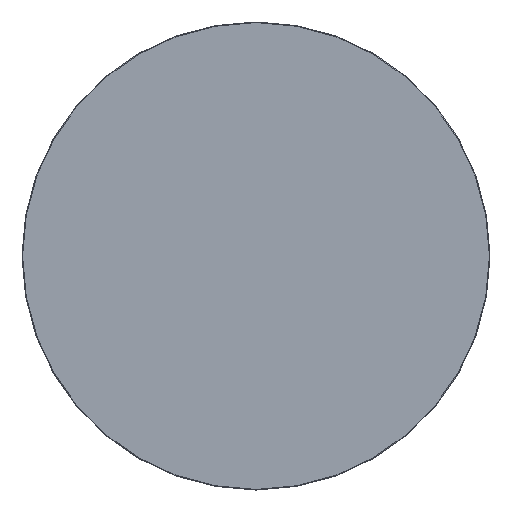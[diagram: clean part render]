
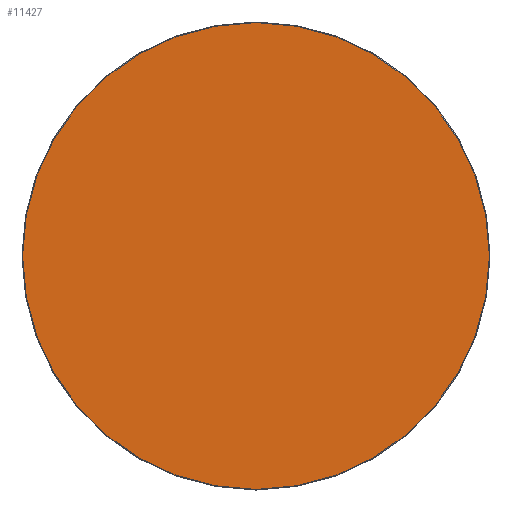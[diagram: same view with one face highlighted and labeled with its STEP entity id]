
A CAD part, top view. The second image highlights one B-rep face of the part: STEP entity #11427.
In plain terms, the highlighted planar face has unit normal (0, 0, 1).
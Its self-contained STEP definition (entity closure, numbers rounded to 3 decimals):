
#11352=CARTESIAN_POINT('',(0.,0.,20.));
#11353=DIRECTION('',(1.,0.,0.));
#11354=DIRECTION('',(0.,0.,1.));
#11355=AXIS2_PLACEMENT_3D('',#11352,#11354,#11353);
#11356=PLANE('',#11355);
#11357=CARTESIAN_POINT('',(-0.5,-548.5,20.));
#11358=VERTEX_POINT('',#11357);
#11359=CARTESIAN_POINT('',(0.5,-548.5,20.));
#11360=VERTEX_POINT('',#11359);
#11361=CARTESIAN_POINT('',(-0.5,-548.5,20.));
#11362=DIRECTION('',(1.,0.,0.));
#11363=VECTOR('',#11362,1.);
#11364=LINE('',#11361,#11363);
#11365=EDGE_CURVE('',#11358,#11360,#11364,.T.);
#11366=ORIENTED_EDGE('E105',*,*,#11365,.T.);
#11367=CARTESIAN_POINT('',(548.5,-0.5,20.));
#11368=VERTEX_POINT('',#11367);
#11369=CARTESIAN_POINT('',(0.5,-0.5,20.));
#11370=DIRECTION('',(0.,-1.,0.));
#11371=DIRECTION('',(0.,-0.,1.));
#11372=AXIS2_PLACEMENT_3D('',#11369,#11371,#11370);
#11373=CIRCLE('',#11372,548.);
#11374=EDGE_CURVE('',#11360,#11368,#11373,.T.);
#11375=ORIENTED_EDGE('E107',*,*,#11374,.T.);
#11376=CARTESIAN_POINT('',(548.5,0.5,20.));
#11377=VERTEX_POINT('',#11376);
#11378=CARTESIAN_POINT('',(548.5,-0.5,20.));
#11379=DIRECTION('',(0.,1.,0.));
#11380=VECTOR('',#11379,1.);
#11381=LINE('',#11378,#11380);
#11382=EDGE_CURVE('',#11368,#11377,#11381,.T.);
#11383=ORIENTED_EDGE('E109',*,*,#11382,.T.);
#11384=CARTESIAN_POINT('',(0.5,548.5,20.));
#11385=VERTEX_POINT('',#11384);
#11386=CARTESIAN_POINT('',(0.5,0.5,20.));
#11387=DIRECTION('',(1.,0.,0.));
#11388=DIRECTION('',(0.,0.,1.));
#11389=AXIS2_PLACEMENT_3D('',#11386,#11388,#11387);
#11390=CIRCLE('',#11389,548.);
#11391=EDGE_CURVE('',#11377,#11385,#11390,.T.);
#11392=ORIENTED_EDGE('E111',*,*,#11391,.T.);
#11393=CARTESIAN_POINT('',(-0.5,548.5,20.));
#11394=VERTEX_POINT('',#11393);
#11395=CARTESIAN_POINT('',(0.5,548.5,20.));
#11396=DIRECTION('',(-1.,0.,0.));
#11397=VECTOR('',#11396,1.);
#11398=LINE('',#11395,#11397);
#11399=EDGE_CURVE('',#11385,#11394,#11398,.T.);
#11400=ORIENTED_EDGE('E113',*,*,#11399,.T.);
#11401=CARTESIAN_POINT('',(-548.5,0.5,20.));
#11402=VERTEX_POINT('',#11401);
#11403=CARTESIAN_POINT('',(-0.5,0.5,20.));
#11404=DIRECTION('',(0.,1.,0.));
#11405=DIRECTION('',(0.,0.,1.));
#11406=AXIS2_PLACEMENT_3D('',#11403,#11405,#11404);
#11407=CIRCLE('',#11406,548.);
#11408=EDGE_CURVE('',#11394,#11402,#11407,.T.);
#11409=ORIENTED_EDGE('E115',*,*,#11408,.T.);
#11410=CARTESIAN_POINT('',(-548.5,-0.5,20.));
#11411=VERTEX_POINT('',#11410);
#11412=CARTESIAN_POINT('',(-548.5,0.5,20.));
#11413=DIRECTION('',(0.,-1.,0.));
#11414=VECTOR('',#11413,1.);
#11415=LINE('',#11412,#11414);
#11416=EDGE_CURVE('',#11402,#11411,#11415,.T.);
#11417=ORIENTED_EDGE('E117',*,*,#11416,.T.);
#11418=CARTESIAN_POINT('',(-0.5,-0.5,20.));
#11419=DIRECTION('',(-1.,0.,0.));
#11420=DIRECTION('',(-0.,0.,1.));
#11421=AXIS2_PLACEMENT_3D('',#11418,#11420,#11419);
#11422=CIRCLE('',#11421,548.);
#11423=EDGE_CURVE('',#11411,#11358,#11422,.T.);
#11424=ORIENTED_EDGE('E119',*,*,#11423,.T.);
#11425=EDGE_LOOP('',(#11366,#11375,#11383,#11392,#11400,#11409,#11417,#11424));
#11426=FACE_OUTER_BOUND('',#11425,.T.);
#11427=ADVANCED_FACE('F2',(#11426),#11356,.T.);
